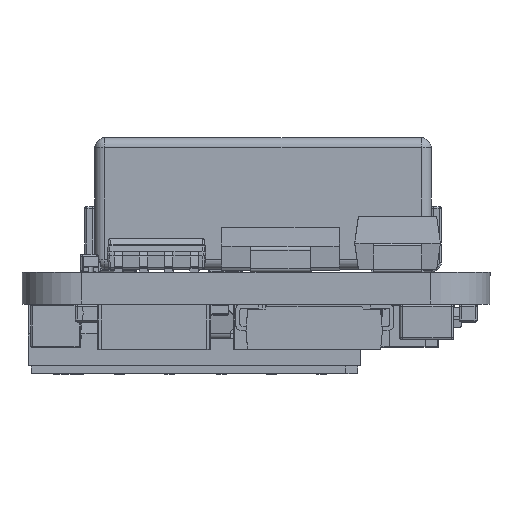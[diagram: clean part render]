
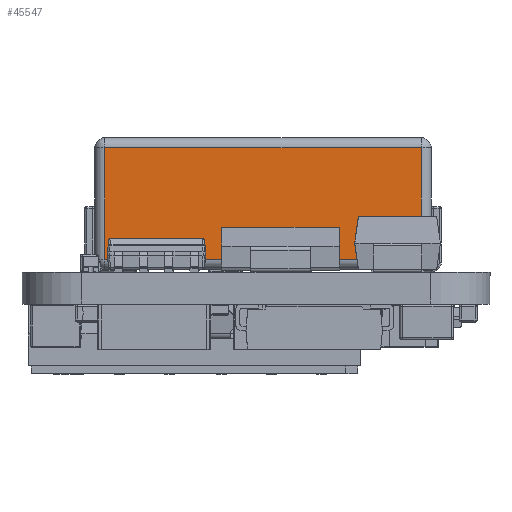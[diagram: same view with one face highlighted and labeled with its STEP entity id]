
A CAD part, front view. The second image highlights one B-rep face of the part: STEP entity #45547.
In plain terms, the highlighted planar face has unit normal (0, -1, 0).
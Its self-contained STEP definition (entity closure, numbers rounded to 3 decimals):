
#2151=PLANE('',#49466);
#4459=FACE_OUTER_BOUND('',#6862,.T.);
#6862=EDGE_LOOP('',(#39825,#39826,#39827,#39828));
#11336=LINE('',#75567,#15888);
#11337=LINE('',#75578,#15889);
#11342=LINE('',#75604,#15894);
#11343=LINE('',#75606,#15895);
#15888=VECTOR('',#61442,15.9);
#15889=VECTOR('',#61457,15.9);
#15894=VECTOR('',#61498,5.6);
#15895=VECTOR('',#61501,5.6);
#21361=VERTEX_POINT('',#75564);
#21362=VERTEX_POINT('',#75566);
#21364=VERTEX_POINT('',#75575);
#21365=VERTEX_POINT('',#75577);
#27523=EDGE_CURVE('',#21361,#21362,#11336,.T.);
#27528=EDGE_CURVE('',#21364,#21365,#11337,.T.);
#27543=EDGE_CURVE('',#21361,#21365,#11342,.T.);
#27544=EDGE_CURVE('',#21362,#21364,#11343,.T.);
#39825=ORIENTED_EDGE('',*,*,#27523,.F.);
#39826=ORIENTED_EDGE('',*,*,#27543,.T.);
#39827=ORIENTED_EDGE('',*,*,#27528,.F.);
#39828=ORIENTED_EDGE('',*,*,#27544,.F.);
#45547=ADVANCED_FACE('',(#4459),#2151,.T.);
#49466=AXIS2_PLACEMENT_3D('',#75605,#61499,#61500);
#61442=DIRECTION('',(-1.,0.,0.));
#61457=DIRECTION('',(1.,0.,0.));
#61498=DIRECTION('',(0.,0.,1.));
#61499=DIRECTION('center_axis',(0.,-1.,0.));
#61500=DIRECTION('ref_axis',(0.,0.,-1.));
#61501=DIRECTION('',(0.,0.,1.));
#75564=CARTESIAN_POINT('',(-0.852,-0.984,1.45));
#75566=CARTESIAN_POINT('',(-16.752,-0.984,1.45));
#75567=CARTESIAN_POINT('',(-0.852,-0.984,1.45));
#75575=CARTESIAN_POINT('',(-16.752,-0.984,7.05));
#75577=CARTESIAN_POINT('',(-0.852,-0.984,7.05));
#75578=CARTESIAN_POINT('',(-16.752,-0.984,7.05));
#75604=CARTESIAN_POINT('',(-0.852,-0.984,1.45));
#75605=CARTESIAN_POINT('Origin',(-8.802,-0.984,1.45));
#75606=CARTESIAN_POINT('',(-16.752,-0.984,1.45));
